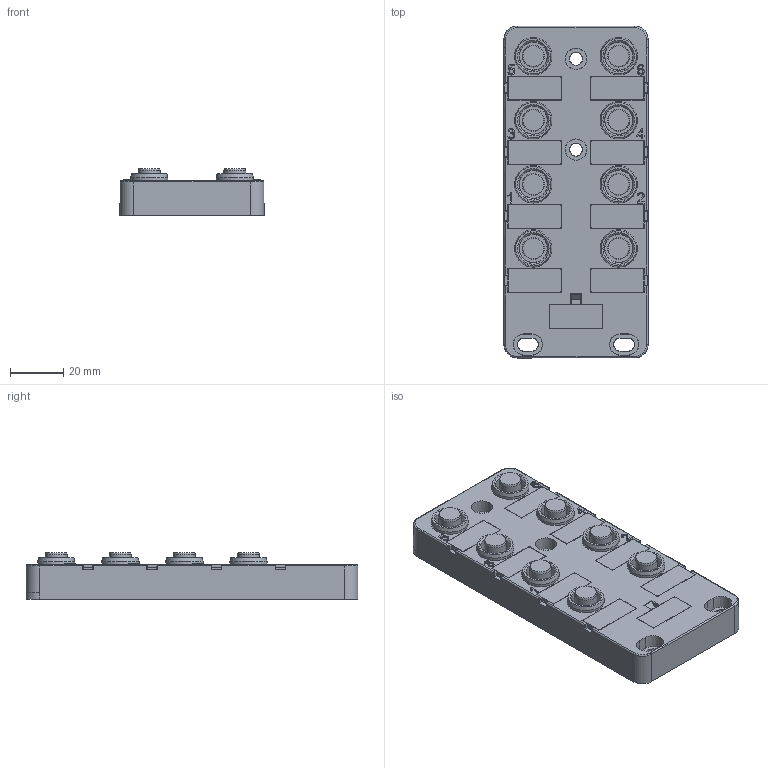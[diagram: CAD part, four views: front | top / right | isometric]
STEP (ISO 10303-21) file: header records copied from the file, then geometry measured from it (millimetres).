
FILE_DESCRIPTION((''),'2;1');
FILE_NAME('C:\Users\enrico\Desktop\Ale\Sito Web Mintec\AUTOMAZIONE_2020\FOTO & STEP Distributori passivi_ciabatte\A cablare\step\M12\ciabatta M12 8 vie a cablare no cavo.stp','2020-08-31T09:54:13',('Tecnico2'),(''),'Autodesk Inventor 2012','Autodesk Inventor 2012','');
FILE_SCHEMA(('AUTOMOTIVE_DESIGN { 1 0 10303 214 1 1 1 1 }'));
Length unit declared in the file: millimetre
Products named in the file (5): 47059-100 no led; Ciab+8vie_M12x1_no cavo_no led; 2701003BI targhettina ciabatte; 270101101_ins_fe NEUTRO; 0606725NI (ghiera femmina M12)
Assembly tree (26 placements, depth 2):
  47059-100 no led
    Ciab+8vie_M12x1_no cavo_no led
    2701003BI targhettina ciabatte  x9
    270101101_ins_fe NEUTRO  x8
    0606725NI (ghiera femmina M12)  x8
Bounding box: 54 x 124.31 x 17.5 mm (x, y, z)
Volume: 62773.7 mm3; surface area: 52799.6 mm2
Topology: 26 solids, 51 shells, 2399 faces, 6512 edges, 4320 vertices
Faces by surface type: plane 1677, cylinder 376, cone 202, bspline 142, torus 2
Full cylindrical faces by diameter (mm): 0.876 x1, 4.811 x2, 8.2 x8, 10.8 x16, 14 x16
Entity records: 53686 total; most frequent: CARTESIAN_POINT 14045, ORIENTED_EDGE 8578, DIRECTION 7452, EDGE_CURVE 4289, VECTOR 3182, LINE 3182, VERTEX_POINT 2874, AXIS2_PLACEMENT_3D 2135
